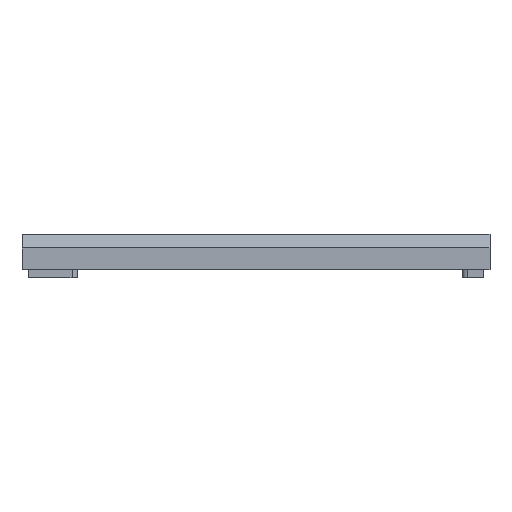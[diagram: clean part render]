
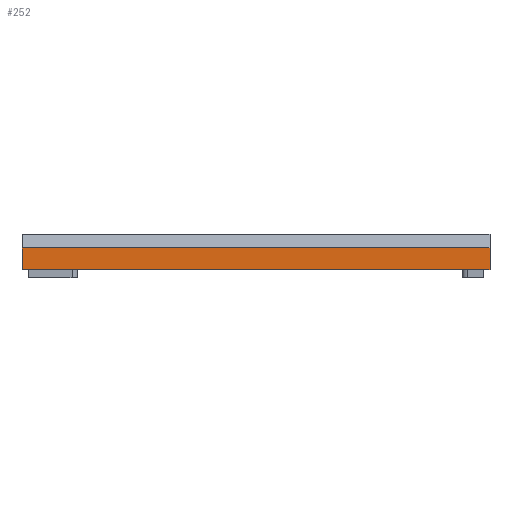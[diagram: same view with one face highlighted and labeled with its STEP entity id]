
A CAD part, front view. The second image highlights one B-rep face of the part: STEP entity #252.
In plain terms, the highlighted planar face has unit normal (0, -1, 0).
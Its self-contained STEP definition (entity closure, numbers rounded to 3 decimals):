
#22 = VERTEX_POINT('',#23);
#23 = CARTESIAN_POINT('',(65.431,-159.21,36.032));
#32 = PLANE('',#33);
#33 = AXIS2_PLACEMENT_3D('',#34,#35,#36);
#34 = CARTESIAN_POINT('',(234.431,-154.87,41.018));
#35 = DIRECTION('',(0.,0.754,-0.657)
  );
#36 = DIRECTION('',(0.,-0.657,-0.754)
  );
#44 = PLANE('',#45);
#45 = AXIS2_PLACEMENT_3D('',#46,#47,#48);
#46 = CARTESIAN_POINT('',(65.431,-103.71,34.386));
#47 = DIRECTION('',(1.,0.,0.));
#48 = DIRECTION('',(0.,0.,-1.));
#56 = EDGE_CURVE('',#57,#22,#59,.T.);
#57 = VERTEX_POINT('',#58);
#58 = CARTESIAN_POINT('',(234.431,-159.21,36.032));
#59 = SURFACE_CURVE('',#60,(#64,#71),.PCURVE_S1.);
#60 = LINE('',#61,#62);
#61 = CARTESIAN_POINT('',(146.181,-159.21,36.032));
#62 = VECTOR('',#63,1.);
#63 = DIRECTION('',(-1.,0.,0.));
#64 = PCURVE('',#32,#65);
#65 = DEFINITIONAL_REPRESENTATION('',(#66),#70);
#66 = LINE('',#67,#68);
#67 = CARTESIAN_POINT('',(6.61,88.25));
#68 = VECTOR('',#69,1.);
#69 = DIRECTION('',(0.,1.));
#70 = ( GEOMETRIC_REPRESENTATION_CONTEXT(2) 
PARAMETRIC_REPRESENTATION_CONTEXT() REPRESENTATION_CONTEXT('2D SPACE',''
  ) );
#71 = PCURVE('',#72,#77);
#72 = PLANE('',#73);
#73 = AXIS2_PLACEMENT_3D('',#74,#75,#76);
#74 = CARTESIAN_POINT('',(57.931,-159.21,10.55));
#75 = DIRECTION('',(0.,-1.,0.));
#76 = DIRECTION('',(1.,0.,0.));
#77 = DEFINITIONAL_REPRESENTATION('',(#78),#82);
#78 = LINE('',#79,#80);
#79 = CARTESIAN_POINT('',(88.25,25.482));
#80 = VECTOR('',#81,1.);
#81 = DIRECTION('',(-1.,0.));
#82 = ( GEOMETRIC_REPRESENTATION_CONTEXT(2) 
PARAMETRIC_REPRESENTATION_CONTEXT() REPRESENTATION_CONTEXT('2D SPACE',''
  ) );
#100 = PLANE('',#101);
#101 = AXIS2_PLACEMENT_3D('',#102,#103,#104);
#102 = CARTESIAN_POINT('',(234.431,-103.71,34.386));
#103 = DIRECTION('',(-1.,0.,0.));
#104 = DIRECTION('',(0.,0.,1.));
#252 = ADVANCED_FACE('',(#253),#72,.T.);
#253 = FACE_BOUND('',#254,.T.);
#254 = EDGE_LOOP('',(#255,#256,#279,#307));
#255 = ORIENTED_EDGE('',*,*,#56,.T.);
#256 = ORIENTED_EDGE('',*,*,#257,.T.);
#257 = EDGE_CURVE('',#22,#258,#260,.T.);
#258 = VERTEX_POINT('',#259);
#259 = CARTESIAN_POINT('',(65.431,-159.21,28.253));
#260 = SURFACE_CURVE('',#261,(#265,#272),.PCURVE_S1.);
#261 = LINE('',#262,#263);
#262 = CARTESIAN_POINT('',(65.431,-159.21,32.32));
#263 = VECTOR('',#264,1.);
#264 = DIRECTION('',(0.,0.,-1.));
#265 = PCURVE('',#72,#266);
#266 = DEFINITIONAL_REPRESENTATION('',(#267),#271);
#267 = LINE('',#268,#269);
#268 = CARTESIAN_POINT('',(7.5,21.77));
#269 = VECTOR('',#270,1.);
#270 = DIRECTION('',(0.,-1.));
#271 = ( GEOMETRIC_REPRESENTATION_CONTEXT(2) 
PARAMETRIC_REPRESENTATION_CONTEXT() REPRESENTATION_CONTEXT('2D SPACE',''
  ) );
#272 = PCURVE('',#44,#273);
#273 = DEFINITIONAL_REPRESENTATION('',(#274),#278);
#274 = LINE('',#275,#276);
#275 = CARTESIAN_POINT('',(2.066,-55.5));
#276 = VECTOR('',#277,1.);
#277 = DIRECTION('',(1.,0.));
#278 = ( GEOMETRIC_REPRESENTATION_CONTEXT(2) 
PARAMETRIC_REPRESENTATION_CONTEXT() REPRESENTATION_CONTEXT('2D SPACE',''
  ) );
#279 = ORIENTED_EDGE('',*,*,#280,.F.);
#280 = EDGE_CURVE('',#281,#258,#283,.T.);
#281 = VERTEX_POINT('',#282);
#282 = CARTESIAN_POINT('',(234.431,-159.21,28.253));
#283 = SURFACE_CURVE('',#284,(#288,#295),.PCURVE_S1.);
#284 = LINE('',#285,#286);
#285 = CARTESIAN_POINT('',(103.931,-159.21,28.253));
#286 = VECTOR('',#287,1.);
#287 = DIRECTION('',(-1.,0.,0.));
#288 = PCURVE('',#72,#289);
#289 = DEFINITIONAL_REPRESENTATION('',(#290),#294);
#290 = LINE('',#291,#292);
#291 = CARTESIAN_POINT('',(46.,17.703));
#292 = VECTOR('',#293,1.);
#293 = DIRECTION('',(-1.,0.));
#294 = ( GEOMETRIC_REPRESENTATION_CONTEXT(2) 
PARAMETRIC_REPRESENTATION_CONTEXT() REPRESENTATION_CONTEXT('2D SPACE',''
  ) );
#295 = PCURVE('',#296,#301);
#296 = PLANE('',#297);
#297 = AXIS2_PLACEMENT_3D('',#298,#299,#300);
#298 = CARTESIAN_POINT('',(159.239,-51.21,28.253));
#299 = DIRECTION('',(0.,0.,-1.));
#300 = DIRECTION('',(1.,0.,0.));
#301 = DEFINITIONAL_REPRESENTATION('',(#302),#306);
#302 = LINE('',#303,#304);
#303 = CARTESIAN_POINT('',(-55.309,108.));
#304 = VECTOR('',#305,1.);
#305 = DIRECTION('',(-1.,0.));
#306 = ( GEOMETRIC_REPRESENTATION_CONTEXT(2) 
PARAMETRIC_REPRESENTATION_CONTEXT() REPRESENTATION_CONTEXT('2D SPACE',''
  ) );
#307 = ORIENTED_EDGE('',*,*,#308,.T.);
#308 = EDGE_CURVE('',#281,#57,#309,.T.);
#309 = SURFACE_CURVE('',#310,(#314,#321),.PCURVE_S1.);
#310 = LINE('',#311,#312);
#311 = CARTESIAN_POINT('',(234.431,-159.21,22.468));
#312 = VECTOR('',#313,1.);
#313 = DIRECTION('',(0.,0.,1.));
#314 = PCURVE('',#72,#315);
#315 = DEFINITIONAL_REPRESENTATION('',(#316),#320);
#316 = LINE('',#317,#318);
#317 = CARTESIAN_POINT('',(176.5,11.918));
#318 = VECTOR('',#319,1.);
#319 = DIRECTION('',(0.,1.));
#320 = ( GEOMETRIC_REPRESENTATION_CONTEXT(2) 
PARAMETRIC_REPRESENTATION_CONTEXT() REPRESENTATION_CONTEXT('2D SPACE',''
  ) );
#321 = PCURVE('',#100,#322);
#322 = DEFINITIONAL_REPRESENTATION('',(#323),#327);
#323 = LINE('',#324,#325);
#324 = CARTESIAN_POINT('',(-11.918,-55.5));
#325 = VECTOR('',#326,1.);
#326 = DIRECTION('',(1.,0.));
#327 = ( GEOMETRIC_REPRESENTATION_CONTEXT(2) 
PARAMETRIC_REPRESENTATION_CONTEXT() REPRESENTATION_CONTEXT('2D SPACE',''
  ) );
